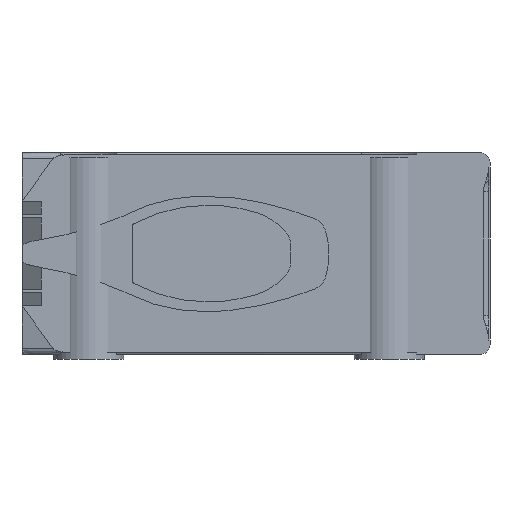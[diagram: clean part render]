
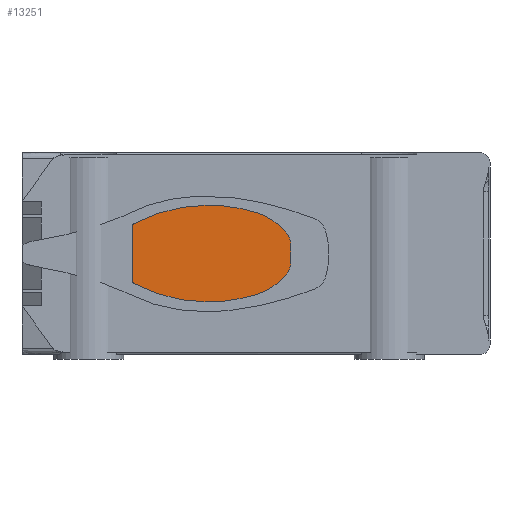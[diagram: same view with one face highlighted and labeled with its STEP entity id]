
A CAD part, front view. The second image highlights one B-rep face of the part: STEP entity #13251.
In plain terms, the highlighted planar face has unit normal (0, -1, 0).
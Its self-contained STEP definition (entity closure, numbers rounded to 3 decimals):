
#641 = AXIS2_PLACEMENT_3D ( 'NONE', #59443, #11349, #152844 ) ;
#662 = DIRECTION ( 'NONE',  ( 0., 1., 0. ) ) ;
#765 = CARTESIAN_POINT ( 'NONE',  ( -110.608, 0., 9.21 ) ) ;
#1073 = EDGE_LOOP ( 'NONE', ( #144413, #66231, #85124, #10341, #14102, #44472, #52933, #5133, #49304, #104754, #38869, #20763 ) ) ;
#2158 = EDGE_CURVE ( 'NONE', #102949, #113113, #26984, .T. ) ;
#2878 = EDGE_CURVE ( 'NONE', #10647, #42763, #142633, .T. ) ;
#5133 = ORIENTED_EDGE ( 'NONE', *, *, #70311, .F. ) ;
#5955 = CARTESIAN_POINT ( 'NONE',  ( -62.306, 0., 2.704 ) ) ;
#5980 = CIRCLE ( 'NONE', #80878, 6. ) ;
#8359 = DIRECTION ( 'NONE',  ( 0., 0., -1. ) ) ;
#10341 = ORIENTED_EDGE ( 'NONE', *, *, #16255, .F. ) ;
#10647 = VERTEX_POINT ( 'NONE', #91405 ) ;
#11143 = CARTESIAN_POINT ( 'NONE',  ( -111., 0., 8.639 ) ) ;
#11349 = DIRECTION ( 'NONE',  ( 0., 1., 0. ) ) ;
#13251 = ADVANCED_FACE ( 'NONE', ( #112200 ), #26467, .T. ) ;
#14102 = ORIENTED_EDGE ( 'NONE', *, *, #65726, .F. ) ;
#16255 = EDGE_CURVE ( 'NONE', #150674, #63537, #76846, .T. ) ;
#20398 = CARTESIAN_POINT ( 'NONE',  ( -111., 0., -9. ) ) ;
#20763 = ORIENTED_EDGE ( 'NONE', *, *, #2158, .T. ) ;
#21523 = CARTESIAN_POINT ( 'NONE',  ( -110.95, 0., -8.789 ) ) ;
#22544 = CARTESIAN_POINT ( 'NONE',  ( -110.798, 0., -9.063 ) ) ;
#24985 = VERTEX_POINT ( 'NONE', #61591 ) ;
#25242 = CARTESIAN_POINT ( 'NONE',  ( -87.745, 0., 14.886 ) ) ;
#26290 = VERTEX_POINT ( 'NONE', #5955 ) ;
#26467 = PLANE ( 'NONE',  #45469 ) ;
#26984 = B_SPLINE_CURVE_WITH_KNOTS ( 'NONE', 3,
 ( #129243, #765, #58725, #47353, #83620, #71195, #11143, #105419 ),
 .UNSPECIFIED., .F., .F.,
 ( 4, 2, 2, 4 ),
 ( 0., 0., 0., 0.001 ),
 .UNSPECIFIED. ) ;
#30928 = DIRECTION ( 'NONE',  ( 0., 0., -1. ) ) ;
#34490 = CARTESIAN_POINT ( 'NONE',  ( -63.793, 0., 6.657 ) ) ;
#37844 = DIRECTION ( 'NONE',  ( 0., 0., -1. ) ) ;
#38869 = ORIENTED_EDGE ( 'NONE', *, *, #55450, .F. ) ;
#40944 = EDGE_CURVE ( 'NONE', #68765, #123290, #93476, .T. ) ;
#42763 = VERTEX_POINT ( 'NONE', #104292 ) ;
#44472 = ORIENTED_EDGE ( 'NONE', *, *, #2878, .F. ) ;
#45469 = AXIS2_PLACEMENT_3D ( 'NONE', #74138, #72617, #123306 ) ;
#46363 = CARTESIAN_POINT ( 'NONE',  ( -68.306, 0., -2.704 ) ) ;
#47353 = CARTESIAN_POINT ( 'NONE',  ( -110.787, 0., 9.058 ) ) ;
#48713 = DIRECTION ( 'NONE',  ( 0., 0., 1. ) ) ;
#49191 = LINE ( 'NONE', #97431, #117586 ) ;
#49304 = ORIENTED_EDGE ( 'NONE', *, *, #63206, .F. ) ;
#49330 = CIRCLE ( 'NONE', #127802, 48.881 ) ;
#52406 = CARTESIAN_POINT ( 'NONE',  ( -111., 0., -8.481 ) ) ;
#52933 = ORIENTED_EDGE ( 'NONE', *, *, #60902, .F. ) ;
#54957 = AXIS2_PLACEMENT_3D ( 'NONE', #46363, #141229, #104423 ) ;
#55450 = EDGE_CURVE ( 'NONE', #102949, #86474, #49330, .T. ) ;
#58725 = CARTESIAN_POINT ( 'NONE',  ( -110.672, 0., 9.165 ) ) ;
#59443 = CARTESIAN_POINT ( 'NONE',  ( -87.745, 0., -33.995 ) ) ;
#60642 = CARTESIAN_POINT ( 'NONE',  ( -110.538, 0., 9.247 ) ) ;
#60902 = EDGE_CURVE ( 'NONE', #26290, #10647, #49191, .T. ) ;
#61591 = CARTESIAN_POINT ( 'NONE',  ( -72.667, 0., 12.503 ) ) ;
#63206 = EDGE_CURVE ( 'NONE', #24985, #84826, #74911, .T. ) ;
#63537 = VERTEX_POINT ( 'NONE', #150425 ) ;
#65726 = EDGE_CURVE ( 'NONE', #42763, #150674, #130401, .T. ) ;
#66231 = ORIENTED_EDGE ( 'NONE', *, *, #40944, .T. ) ;
#66376 = DIRECTION ( 'NONE',  ( 0., 1., 0. ) ) ;
#67709 = CARTESIAN_POINT ( 'NONE',  ( -87.745, 0., 33.995 ) ) ;
#67979 = CIRCLE ( 'NONE', #69632, 48.881 ) ;
#68765 = VERTEX_POINT ( 'NONE', #52406 ) ;
#69217 = CARTESIAN_POINT ( 'NONE',  ( -111., 0., -8.481 ) ) ;
#69632 = AXIS2_PLACEMENT_3D ( 'NONE', #67709, #101941, #30928 ) ;
#70311 = EDGE_CURVE ( 'NONE', #84826, #26290, #5980, .T. ) ;
#71195 = CARTESIAN_POINT ( 'NONE',  ( -110.958, 0., 8.796 ) ) ;
#72617 = DIRECTION ( 'NONE',  ( 0., -1., 0. ) ) ;
#74138 = CARTESIAN_POINT ( 'NONE',  ( -87.745, 0., 33.995 ) ) ;
#74911 = CIRCLE ( 'NONE', #148097, 20. ) ;
#76846 = CIRCLE ( 'NONE', #90181, 48.881 ) ;
#77517 = CARTESIAN_POINT ( 'NONE',  ( -78.836, 0., 6.522 ) ) ;
#80878 = AXIS2_PLACEMENT_3D ( 'NONE', #141056, #107826, #48713 ) ;
#83620 = CARTESIAN_POINT ( 'NONE',  ( -110.837, 0., 8.997 ) ) ;
#84826 = VERTEX_POINT ( 'NONE', #34490 ) ;
#85124 = ORIENTED_EDGE ( 'NONE', *, *, #130439, .F. ) ;
#85634 = DIRECTION ( 'NONE',  ( 0., 1., 0. ) ) ;
#86474 = VERTEX_POINT ( 'NONE', #25242 ) ;
#88200 = EDGE_CURVE ( 'NONE', #68765, #113113, #109078, .T. ) ;
#90181 = AXIS2_PLACEMENT_3D ( 'NONE', #113994, #66376, #8359 ) ;
#91405 = CARTESIAN_POINT ( 'NONE',  ( -62.306, 0., -2.704 ) ) ;
#93476 = B_SPLINE_CURVE_WITH_KNOTS ( 'NONE', 3,
 ( #69217, #104979, #139728, #21523, #152181, #22544, #127248, #115823 ),
 .UNSPECIFIED., .F., .F.,
 ( 4, 2, 2, 4 ),
 ( 0., 0., 0., 0.001 ),
 .UNSPECIFIED. ) ;
#97431 = CARTESIAN_POINT ( 'NONE',  ( -62.306, 0., 2.704 ) ) ;
#101941 = DIRECTION ( 'NONE',  ( 0., 1., 0. ) ) ;
#102949 = VERTEX_POINT ( 'NONE', #60642 ) ;
#104292 = CARTESIAN_POINT ( 'NONE',  ( -63.793, 0., -6.657 ) ) ;
#104423 = DIRECTION ( 'NONE',  ( 0., 0., -1. ) ) ;
#104754 = ORIENTED_EDGE ( 'NONE', *, *, #144357, .F. ) ;
#104979 = CARTESIAN_POINT ( 'NONE',  ( -111., 0., -8.56 ) ) ;
#105414 = CARTESIAN_POINT ( 'NONE',  ( -111., 0., 8.481 ) ) ;
#105419 = CARTESIAN_POINT ( 'NONE',  ( -111., 0., 8.481 ) ) ;
#105820 = CARTESIAN_POINT ( 'NONE',  ( -87.745, 0., -33.995 ) ) ;
#107350 = DIRECTION ( 'NONE',  ( 0., 0., 1. ) ) ;
#107826 = DIRECTION ( 'NONE',  ( 0., 1., 0. ) ) ;
#109078 = LINE ( 'NONE', #20398, #114534 ) ;
#109471 = AXIS2_PLACEMENT_3D ( 'NONE', #77517, #136617, #125167 ) ;
#111689 = CIRCLE ( 'NONE', #641, 48.881 ) ;
#112200 = FACE_OUTER_BOUND ( 'NONE', #1073, .T. ) ;
#113113 = VERTEX_POINT ( 'NONE', #105414 ) ;
#113994 = CARTESIAN_POINT ( 'NONE',  ( -87.745, 0., 33.995 ) ) ;
#114534 = VECTOR ( 'NONE', #151572, 1000. ) ;
#115823 = CARTESIAN_POINT ( 'NONE',  ( -110.538, 0., -9.247 ) ) ;
#117586 = VECTOR ( 'NONE', #37844, 1000. ) ;
#118550 = CARTESIAN_POINT ( 'NONE',  ( -72.667, 0., -12.503 ) ) ;
#121371 = DIRECTION ( 'NONE',  ( 0., 0., 1. ) ) ;
#123290 = VERTEX_POINT ( 'NONE', #133344 ) ;
#123306 = DIRECTION ( 'NONE',  ( 0., 0., -1. ) ) ;
#125167 = DIRECTION ( 'NONE',  ( 0., 0., -1. ) ) ;
#127248 = CARTESIAN_POINT ( 'NONE',  ( -110.678, 0., -9.173 ) ) ;
#127802 = AXIS2_PLACEMENT_3D ( 'NONE', #105820, #662, #107350 ) ;
#129243 = CARTESIAN_POINT ( 'NONE',  ( -110.538, 0., 9.247 ) ) ;
#130401 = CIRCLE ( 'NONE', #109471, 20. ) ;
#130439 = EDGE_CURVE ( 'NONE', #63537, #123290, #67979, .T. ) ;
#133344 = CARTESIAN_POINT ( 'NONE',  ( -110.538, 0., -9.247 ) ) ;
#136617 = DIRECTION ( 'NONE',  ( 0., 1., 0. ) ) ;
#139728 = CARTESIAN_POINT ( 'NONE',  ( -110.99, 0., -8.637 ) ) ;
#141056 = CARTESIAN_POINT ( 'NONE',  ( -68.306, 0., 2.704 ) ) ;
#141229 = DIRECTION ( 'NONE',  ( 0., 1., 0. ) ) ;
#142633 = CIRCLE ( 'NONE', #54957, 6. ) ;
#144256 = CARTESIAN_POINT ( 'NONE',  ( -78.836, 0., -6.522 ) ) ;
#144357 = EDGE_CURVE ( 'NONE', #86474, #24985, #111689, .T. ) ;
#144413 = ORIENTED_EDGE ( 'NONE', *, *, #88200, .F. ) ;
#148097 = AXIS2_PLACEMENT_3D ( 'NONE', #144256, #85634, #121371 ) ;
#150425 = CARTESIAN_POINT ( 'NONE',  ( -87.745, 0., -14.886 ) ) ;
#150674 = VERTEX_POINT ( 'NONE', #118550 ) ;
#151572 = DIRECTION ( 'NONE',  ( 0., 0., 1. ) ) ;
#152181 = CARTESIAN_POINT ( 'NONE',  ( -110.919, 0., -8.862 ) ) ;
#152844 = DIRECTION ( 'NONE',  ( 0., 0., 1. ) ) ;
